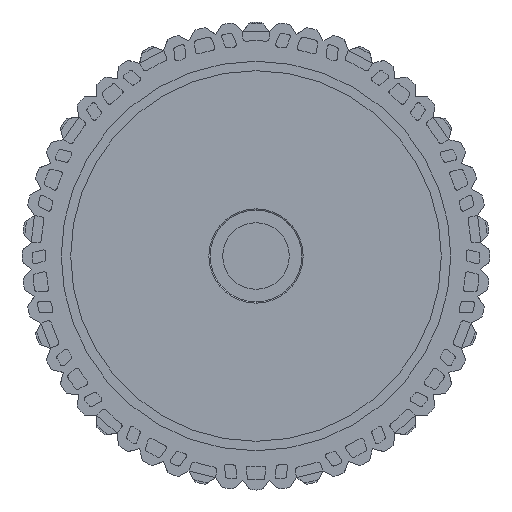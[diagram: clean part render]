
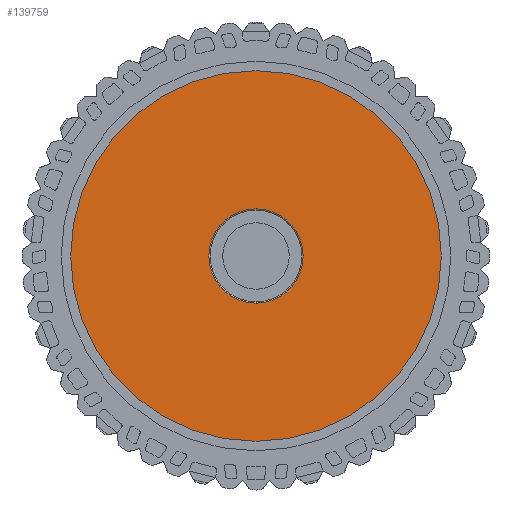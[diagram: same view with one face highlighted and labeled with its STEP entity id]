
A CAD part, front view. The second image highlights one B-rep face of the part: STEP entity #139759.
In plain terms, the highlighted planar face has unit normal (0, -1, 0).
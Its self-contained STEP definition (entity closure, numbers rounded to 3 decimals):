
#3203 = AXIS2_PLACEMENT_3D ( 'NONE', #105548, #31204, #90111 ) ;
#4039 = DIRECTION ( 'NONE',  ( 0., 1., 0. ) ) ;
#6556 = ORIENTED_EDGE ( 'NONE', *, *, #51465, .T. ) ;
#12662 = DIRECTION ( 'NONE',  ( 0., 0., -1. ) ) ;
#14115 = DIRECTION ( 'NONE',  ( 0., 1., 0. ) ) ;
#15149 = CARTESIAN_POINT ( 'NONE',  ( 0., -10., -29.5 ) ) ;
#27559 = VERTEX_POINT ( 'NONE', #15149 ) ;
#27665 = DIRECTION ( 'NONE',  ( 0., 0., 1. ) ) ;
#31204 = DIRECTION ( 'NONE',  ( 0., -1., 0. ) ) ;
#39977 = EDGE_CURVE ( 'NONE', #179510, #121660, #79730, .T. ) ;
#51465 = EDGE_CURVE ( 'NONE', #27559, #152073, #148369, .T. ) ;
#53050 = CIRCLE ( 'NONE', #160920, 7.5 ) ;
#60508 = PLANE ( 'NONE',  #167880 ) ;
#63038 = EDGE_LOOP ( 'NONE', ( #6556, #139265 ) ) ;
#65826 = DIRECTION ( 'NONE',  ( 0., 0., 1. ) ) ;
#69690 = CARTESIAN_POINT ( 'NONE',  ( 0., -10., 0. ) ) ;
#74987 = FACE_OUTER_BOUND ( 'NONE', #63038, .T. ) ;
#75949 = DIRECTION ( 'NONE',  ( 0., 1., 0. ) ) ;
#79730 = CIRCLE ( 'NONE', #147534, 7.5 ) ;
#81259 = CARTESIAN_POINT ( 'NONE',  ( 0., -10., 0. ) ) ;
#90111 = DIRECTION ( 'NONE',  ( 0., 0., -1. ) ) ;
#93218 = CARTESIAN_POINT ( 'NONE',  ( 0., -10., 29.5 ) ) ;
#93989 = EDGE_CURVE ( 'NONE', #121660, #179510, #53050, .T. ) ;
#98664 = DIRECTION ( 'NONE',  ( 0., -1., 0. ) ) ;
#104924 = CARTESIAN_POINT ( 'NONE',  ( 0., -10., 0. ) ) ;
#105548 = CARTESIAN_POINT ( 'NONE',  ( 0., -10., 0. ) ) ;
#121660 = VERTEX_POINT ( 'NONE', #176536 ) ;
#139265 = ORIENTED_EDGE ( 'NONE', *, *, #175008, .T. ) ;
#139759 = ADVANCED_FACE ( 'NONE', ( #160961, #74987 ), #60508, .F. ) ;
#142496 = ORIENTED_EDGE ( 'NONE', *, *, #39977, .T. ) ;
#145047 = CIRCLE ( 'NONE', #3203, 29.5 ) ;
#147534 = AXIS2_PLACEMENT_3D ( 'NONE', #174390, #14115, #27665 ) ;
#148369 = CIRCLE ( 'NONE', #173001, 29.5 ) ;
#150297 = DIRECTION ( 'NONE',  ( 0., 0., 1. ) ) ;
#152073 = VERTEX_POINT ( 'NONE', #93218 ) ;
#160920 = AXIS2_PLACEMENT_3D ( 'NONE', #81259, #4039, #65826 ) ;
#160961 = FACE_BOUND ( 'NONE', #164334, .T. ) ;
#164334 = EDGE_LOOP ( 'NONE', ( #185057, #142496 ) ) ;
#167880 = AXIS2_PLACEMENT_3D ( 'NONE', #104924, #75949, #150297 ) ;
#173001 = AXIS2_PLACEMENT_3D ( 'NONE', #69690, #98664, #12662 ) ;
#173205 = CARTESIAN_POINT ( 'NONE',  ( 0., -10., -7.5 ) ) ;
#174390 = CARTESIAN_POINT ( 'NONE',  ( 0., -10., 0. ) ) ;
#175008 = EDGE_CURVE ( 'NONE', #152073, #27559, #145047, .T. ) ;
#176536 = CARTESIAN_POINT ( 'NONE',  ( 0., -10., 7.5 ) ) ;
#179510 = VERTEX_POINT ( 'NONE', #173205 ) ;
#185057 = ORIENTED_EDGE ( 'NONE', *, *, #93989, .T. ) ;
